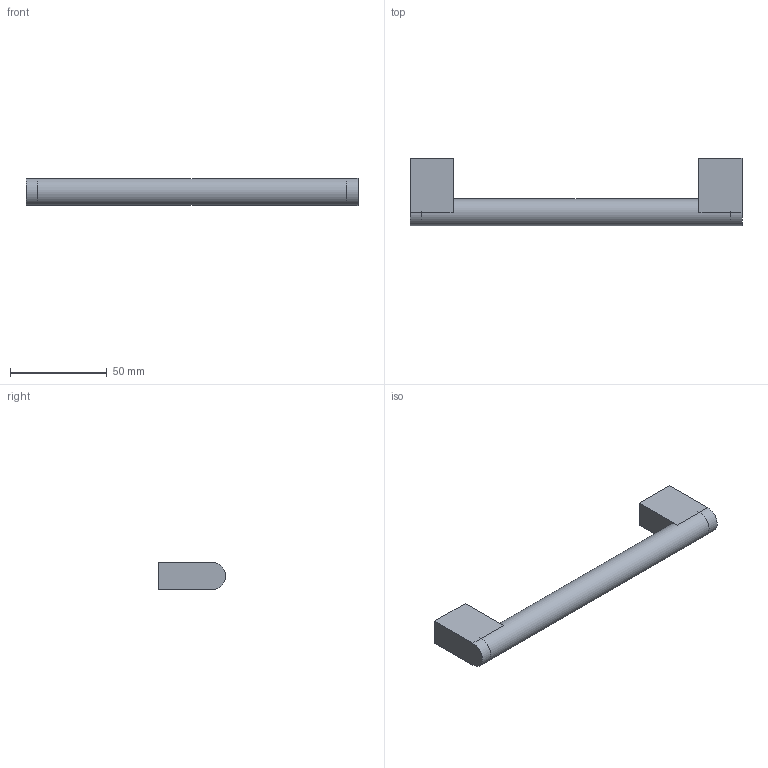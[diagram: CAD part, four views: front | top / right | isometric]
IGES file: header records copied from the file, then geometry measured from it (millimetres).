
Start section: Data from Parasolid IGES Translator 17.0.49, Copyright(c) 2006 Siemens P LM Software. All Rights Reserved.
Global section: file name: 9069893.igs; native system: By Siemens PLM Incorporated; preprocessor: XPlus GENERIC/IGES 17.0.49; author: Noname; organization: Noname; date: 20181120.154623; units: millimetre
Bounding box: 172 x 35 x 14 mm (x, y, z)
Surface area: 12950.1 mm2 (no closed solid volume)
Topology: 0 solids, 0 shells, 21 faces, 82 edges, 78 vertices
Faces by surface type: extrusion 14, revolution 7
